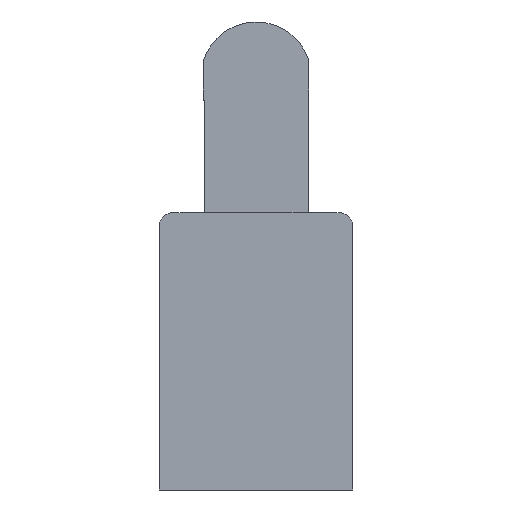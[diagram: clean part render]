
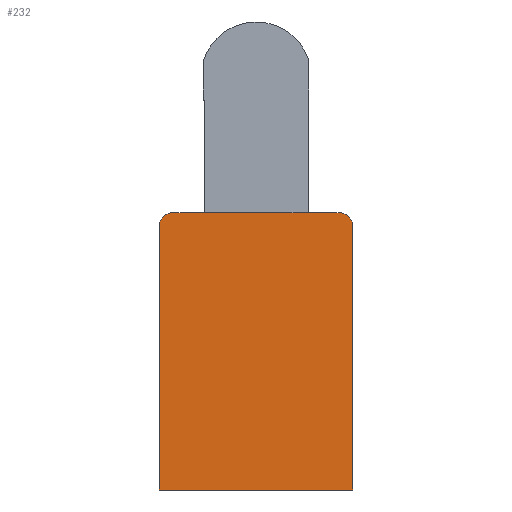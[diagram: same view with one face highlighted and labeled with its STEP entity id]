
A CAD part, left-side view. The second image highlights one B-rep face of the part: STEP entity #232.
In plain terms, the highlighted planar face has unit normal (-1, 0, 0).
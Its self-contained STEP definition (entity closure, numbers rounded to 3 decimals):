
#4 = DIRECTION ( 'NONE',  ( 0., 0., 1. ) ) ;
#9 = CARTESIAN_POINT ( 'NONE',  ( -200., 14., -40. ) ) ;
#19 = CARTESIAN_POINT ( 'NONE',  ( -200., 14., -40. ) ) ;
#38 = VECTOR ( 'NONE', #583, 1000. ) ;
#43 = DIRECTION ( 'NONE',  ( 0., 0., 1. ) ) ;
#47 = ORIENTED_EDGE ( 'NONE', *, *, #588, .T. ) ;
#65 = DIRECTION ( 'NONE',  ( -1., 0., 0. ) ) ;
#73 = EDGE_CURVE ( 'NONE', #579, #640, #585, .T. ) ;
#99 = VERTEX_POINT ( 'NONE', #508 ) ;
#101 = CARTESIAN_POINT ( 'NONE',  ( -200., -11.956, -2. ) ) ;
#107 = VECTOR ( 'NONE', #662, 1000. ) ;
#135 = EDGE_CURVE ( 'NONE', #99, #473, #497, .T. ) ;
#143 = VECTOR ( 'NONE', #241, 1000. ) ;
#144 = VERTEX_POINT ( 'NONE', #504 ) ;
#147 = CARTESIAN_POINT ( 'NONE',  ( -200., 12., 0. ) ) ;
#169 = DIRECTION ( 'NONE',  ( 0., 1., 0. ) ) ;
#170 = DIRECTION ( 'NONE',  ( 0., 0., 1. ) ) ;
#173 = CARTESIAN_POINT ( 'NONE',  ( -200., 14., -2. ) ) ;
#225 = CARTESIAN_POINT ( 'NONE',  ( -200., 12., -2. ) ) ;
#226 = ORIENTED_EDGE ( 'NONE', *, *, #73, .T. ) ;
#232 = ADVANCED_FACE ( 'NONE', ( #265 ), #700, .T. ) ;
#241 = DIRECTION ( 'NONE',  ( 0., 0., -1. ) ) ;
#248 = LINE ( 'NONE', #147, #629 ) ;
#258 = AXIS2_PLACEMENT_3D ( 'NONE', #431, #65, #4 ) ;
#265 = FACE_OUTER_BOUND ( 'NONE', #442, .T. ) ;
#268 = CARTESIAN_POINT ( 'NONE',  ( -200., -7.5, 0. ) ) ;
#274 = EDGE_CURVE ( 'NONE', #473, #579, #411, .T. ) ;
#293 = AXIS2_PLACEMENT_3D ( 'NONE', #225, #562, #170 ) ;
#302 = EDGE_CURVE ( 'NONE', #640, #547, #359, .T. ) ;
#311 = CARTESIAN_POINT ( 'NONE',  ( -200., -13.956, -2. ) ) ;
#343 = ORIENTED_EDGE ( 'NONE', *, *, #485, .T. ) ;
#359 = LINE ( 'NONE', #9, #107 ) ;
#370 = CARTESIAN_POINT ( 'NONE',  ( -200., 12., 0. ) ) ;
#372 = DIRECTION ( 'NONE',  ( 0., 0., 1. ) ) ;
#384 = VECTOR ( 'NONE', #372, 1000. ) ;
#399 = LINE ( 'NONE', #564, #38 ) ;
#411 = CIRCLE ( 'NONE', #293, 2. ) ;
#412 = VERTEX_POINT ( 'NONE', #268 ) ;
#429 = DIRECTION ( 'NONE',  ( -1., 0., 0. ) ) ;
#431 = CARTESIAN_POINT ( 'NONE',  ( -200., -11.956, -2. ) ) ;
#438 = EDGE_CURVE ( 'NONE', #460, #144, #443, .T. ) ;
#442 = EDGE_LOOP ( 'NONE', ( #699, #527, #480, #343, #47, #474, #678, #226 ) ) ;
#443 = CIRCLE ( 'NONE', #455, 2. ) ;
#455 = AXIS2_PLACEMENT_3D ( 'NONE', #101, #429, #43 ) ;
#460 = VERTEX_POINT ( 'NONE', #311 ) ;
#462 = VECTOR ( 'NONE', #169, 1000. ) ;
#473 = VERTEX_POINT ( 'NONE', #370 ) ;
#474 = ORIENTED_EDGE ( 'NONE', *, *, #135, .T. ) ;
#480 = ORIENTED_EDGE ( 'NONE', *, *, #438, .T. ) ;
#485 = EDGE_CURVE ( 'NONE', #144, #412, #248, .T. ) ;
#497 = LINE ( 'NONE', #661, #462 ) ;
#504 = CARTESIAN_POINT ( 'NONE',  ( -200., -11.956, 0. ) ) ;
#508 = CARTESIAN_POINT ( 'NONE',  ( -200., 7.5, 0. ) ) ;
#527 = ORIENTED_EDGE ( 'NONE', *, *, #634, .T. ) ;
#547 = VERTEX_POINT ( 'NONE', #675 ) ;
#552 = LINE ( 'NONE', #642, #384 ) ;
#562 = DIRECTION ( 'NONE',  ( -1., 0., 0. ) ) ;
#564 = CARTESIAN_POINT ( 'NONE',  ( -200., 12., 0. ) ) ;
#579 = VERTEX_POINT ( 'NONE', #173 ) ;
#583 = DIRECTION ( 'NONE',  ( 0., 1., 0. ) ) ;
#585 = LINE ( 'NONE', #19, #143 ) ;
#588 = EDGE_CURVE ( 'NONE', #412, #99, #399, .T. ) ;
#629 = VECTOR ( 'NONE', #644, 1000. ) ;
#634 = EDGE_CURVE ( 'NONE', #547, #460, #552, .T. ) ;
#640 = VERTEX_POINT ( 'NONE', #646 ) ;
#642 = CARTESIAN_POINT ( 'NONE',  ( -200., -13.956, -40. ) ) ;
#644 = DIRECTION ( 'NONE',  ( 0., 1., 0. ) ) ;
#646 = CARTESIAN_POINT ( 'NONE',  ( -200., 14., -40. ) ) ;
#661 = CARTESIAN_POINT ( 'NONE',  ( -200., 12., 0. ) ) ;
#662 = DIRECTION ( 'NONE',  ( 0., -1., 0. ) ) ;
#675 = CARTESIAN_POINT ( 'NONE',  ( -200., -13.956, -40. ) ) ;
#678 = ORIENTED_EDGE ( 'NONE', *, *, #274, .T. ) ;
#699 = ORIENTED_EDGE ( 'NONE', *, *, #302, .T. ) ;
#700 = PLANE ( 'NONE',  #258 ) ;
